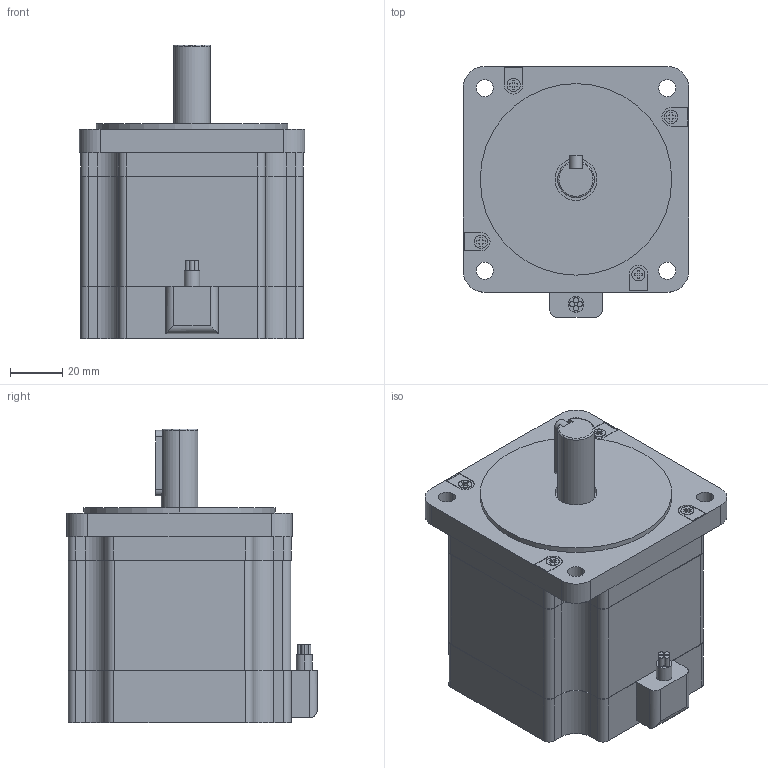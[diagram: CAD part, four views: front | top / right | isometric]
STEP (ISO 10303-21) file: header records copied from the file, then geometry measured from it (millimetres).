
FILE_DESCRIPTION (( 'STEP AP203' ), '1' );
FILE_NAME ('STC-86D60-0480.STEP', '2019-10-25T07:01:02', ( 'China' ), ( 'Home' ), 'SwSTEP 2.0', 'SolidWorks 2016', '' );
FILE_SCHEMA (( 'CONFIG_CONTROL_DESIGN' ));
Length unit declared in the file: millimetre
Products named in the file (1): STC-86D60-0480
Bounding box: 86 x 95.5 x 112 mm (x, y, z)
Volume: 535824.5 mm3; surface area: 44402.4 mm2
Topology: 2 solids, 2 shells, 227 faces, 593 edges, 394 vertices
Faces by surface type: plane 137, cylinder 87, bspline 3
Entity records: 7159 total; most frequent: CARTESIAN_POINT 1332, DIRECTION 1205, ORIENTED_EDGE 1186, EDGE_CURVE 593, LINE 413, VECTOR 413, AXIS2_PLACEMENT_3D 396, VERTEX_POINT 394
